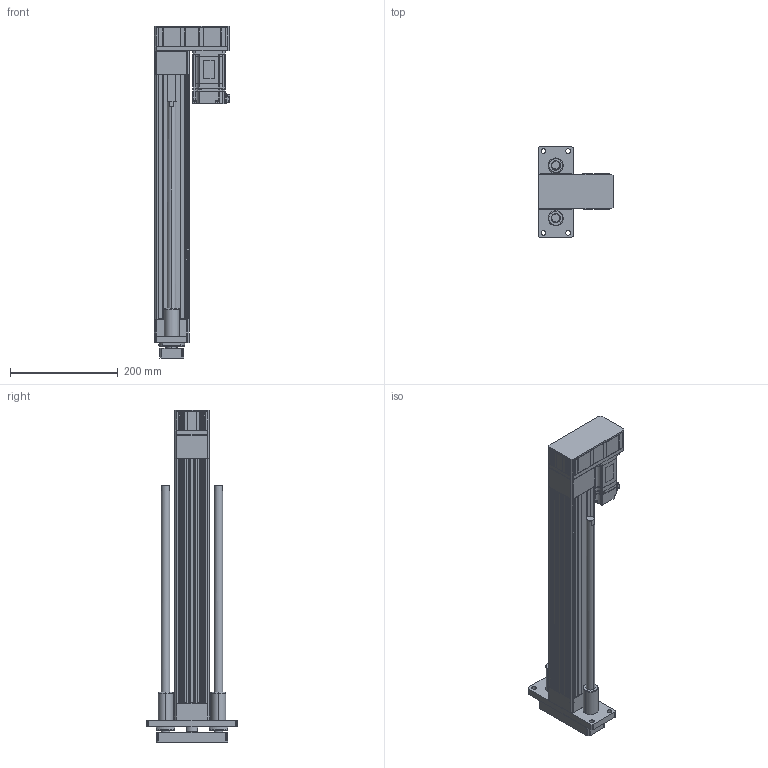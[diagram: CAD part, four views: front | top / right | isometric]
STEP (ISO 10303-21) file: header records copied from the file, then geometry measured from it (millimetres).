
FILE_DESCRIPTION (( 'STEP AP203' ), '1' );
FILE_NAME ('ANS065R-GP350-05(10)(20)-W40.STEP', '2019-03-01T08:59:41', ( 'user' ), ( '' ), 'SwSTEP 2.0', 'SolidWorks 2013', '' );
FILE_SCHEMA (( 'CONFIG_CONTROL_DESIGN' ));
Length unit declared in the file: millimetre
Products named in the file (4): ANS065R GP350 VER2; ANS065 ROD ST350 G; sgmjv_04a_a21; ANS065R-GP350-05(10)(20)-W40
Assembly tree (3 placements, depth 2):
  ANS065R-GP350-05(10)(20)-W40
    ANS065R GP350 VER2
    ANS065 ROD ST350 G
    sgmjv_04a_a21
Bounding box: 140.3 x 170 x 616 mm (x, y, z)
Volume: 2214870.6 mm3; surface area: 557178.8 mm2
Topology: 3 solids, 19 shells, 1720 faces, 4439 edges, 2846 vertices
Faces by surface type: plane 1030, cylinder 504, cone 182, torus 4
Entity records: 52345 total; most frequent: CARTESIAN_POINT 9317, DIRECTION 8915, ORIENTED_EDGE 8830, EDGE_CURVE 4415, LINE 3163, VECTOR 3163, AXIS2_PLACEMENT_3D 2876, VERTEX_POINT 2846
